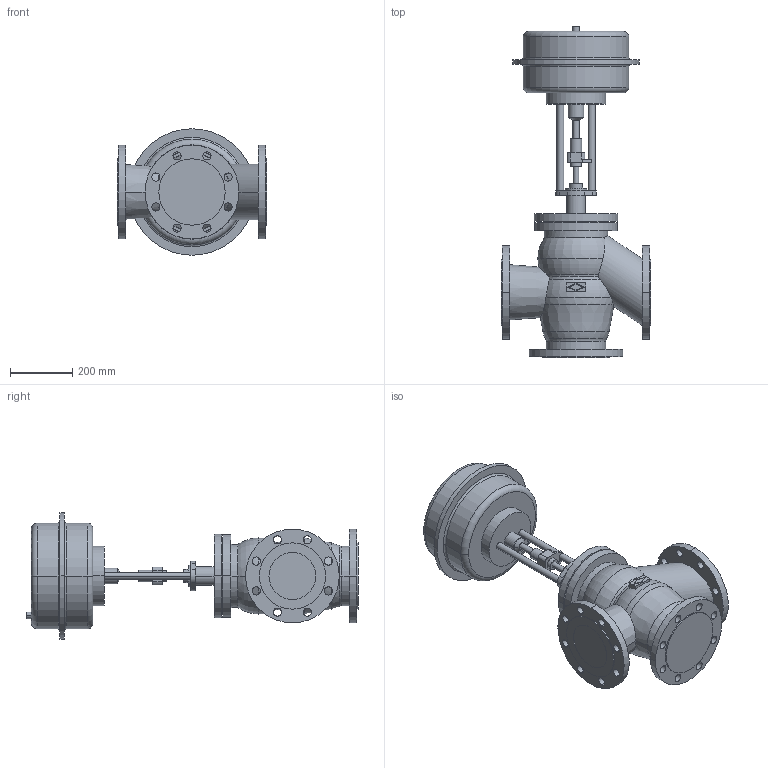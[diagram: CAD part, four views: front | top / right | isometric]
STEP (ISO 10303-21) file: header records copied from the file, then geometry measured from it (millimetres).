
FILE_DESCRIPTION(('OneSpaceDesigner STEP Export'),'2;1');
FILE_NAME('c000000698.stp','2006-09-19T10:19:27',(''),(''),'OneSpace Designer STEP processor for AP214 (Solid Model)','OneSpace Designer 13.20A 18-Aug-2005 (C) CoCreate Software GmbH','');
FILE_SCHEMA(('AUTOMOTIVE_DESIGN { 1 0 10303 214 1 1 1 1 }'));
Length unit declared in the file: millimetre
Products named in the file (2): 1; 2
Bounding box: 480 x 1063 x 405 mm (x, y, z)
Volume: 48592734.3 mm3; surface area: 1548474.2 mm2
Topology: 2 solids, 2 shells, 214 faces, 518 edges, 338 vertices
Faces by surface type: cylinder 114, plane 68, torus 26, cone 6
Entity records: 5782 total; most frequent: CARTESIAN_POINT 1162, ORIENTED_EDGE 1036, DIRECTION 824, EDGE_CURVE 518, VERTEX_POINT 338, AXIS2_PLACEMENT_3D 308, EDGE_LOOP 292, FACE_OUTER_BOUND 214
